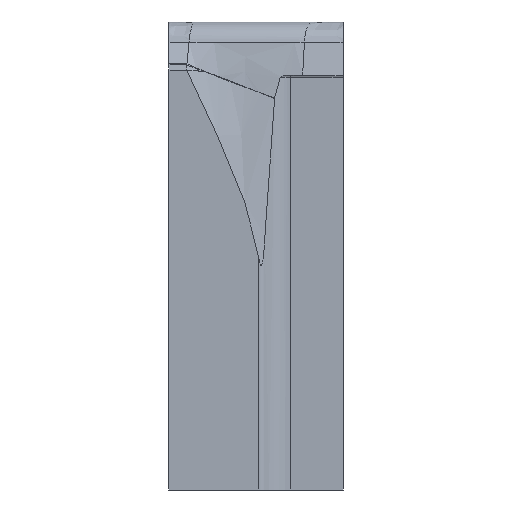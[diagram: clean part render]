
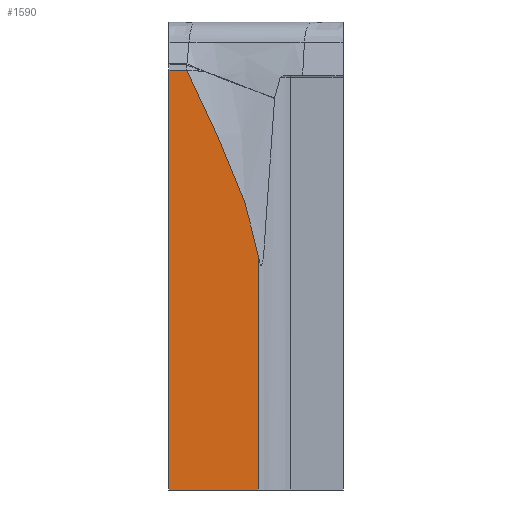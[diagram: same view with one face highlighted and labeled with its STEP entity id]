
A CAD part, left-side view. The second image highlights one B-rep face of the part: STEP entity #1590.
In plain terms, the highlighted planar face has unit normal (-1, 0, 0).
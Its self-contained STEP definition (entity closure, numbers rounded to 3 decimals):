
#1531=AXIS2_PLACEMENT_3D('Plane Axis2P3D',#1528,#1529,#1530) ;
#1528=CARTESIAN_POINT('Axis2P3D Location',(-14.,-0.82,-160.)) ;
#1534=CARTESIAN_POINT('Control Point',(-14.,-0.82,-79.494)) ;
#1535=CARTESIAN_POINT('Control Point',(-14.,-0.078,-75.244)) ;
#1536=CARTESIAN_POINT('Control Point',(-14.,0.82,-71.022)) ;
#1537=CARTESIAN_POINT('Control Point',(-14.,1.895,-66.866)) ;
#1538=CARTESIAN_POINT('Control Point',(-14.,4.421,-58.689)) ;
#1539=CARTESIAN_POINT('Control Point',(-14.,7.555,-50.747)) ;
#1540=CARTESIAN_POINT('Control Point',(-14.,9.233,-46.845)) ;
#1541=CARTESIAN_POINT('Control Point',(-14.,11.508,-41.804)) ;
#1542=CARTESIAN_POINT('Control Point',(-14.,13.843,-36.799)) ;
#1543=CARTESIAN_POINT('Control Point',(-14.,14.396,-35.621)) ;
#1544=CARTESIAN_POINT('Control Point',(-14.,16.574,-30.993)) ;
#1545=CARTESIAN_POINT('Control Point',(-14.,18.763,-26.376)) ;
#1546=CARTESIAN_POINT('Control Point',(-14.,20.384,-22.931)) ;
#1547=CARTESIAN_POINT('Control Point',(-14.,22.045,-19.345)) ;
#1548=CARTESIAN_POINT('Control Point',(-14.,23.671,-15.747)) ;
#1549=CARTESIAN_POINT('Control Point',(-14.,23.731,-15.613)) ;
#1550=CARTESIAN_POINT('Control Point',(-14.,23.792,-15.478)) ;
#1551=CARTESIAN_POINT('Control Point',(-14.,23.853,-15.343)) ;
#1552=CARTESIAN_POINT('Vertex',(-14.,-0.82,-79.494)) ;
#1554=CARTESIAN_POINT('Vertex',(-14.,23.853,-15.343)) ;
#1557=CARTESIAN_POINT('Line Origine',(-14.,26.926,-15.343)) ;
#1561=CARTESIAN_POINT('Vertex',(-14.,30.,-15.343)) ;
#1564=CARTESIAN_POINT('Line Origine',(-14.,30.,-87.672)) ;
#1568=CARTESIAN_POINT('Vertex',(-14.,30.,-160.)) ;
#1571=CARTESIAN_POINT('Line Origine',(-14.,14.59,-160.)) ;
#1575=CARTESIAN_POINT('Vertex',(-14.,-0.82,-160.)) ;
#1578=CARTESIAN_POINT('Line Origine',(-14.,-0.82,-119.747)) ;
#1529=DIRECTION('Axis2P3D Direction',(1.,0.,0.)) ;
#1530=DIRECTION('Axis2P3D XDirection',(0.,1.,0.)) ;
#1558=DIRECTION('Vector Direction',(0.,-1.,0.)) ;
#1565=DIRECTION('Vector Direction',(0.,0.,1.)) ;
#1572=DIRECTION('Vector Direction',(0.,1.,0.)) ;
#1579=DIRECTION('Vector Direction',(0.,0.,1.)) ;
#1559=VECTOR('Line Direction',#1558,1.) ;
#1566=VECTOR('Line Direction',#1565,1.) ;
#1573=VECTOR('Line Direction',#1572,1.) ;
#1580=VECTOR('Line Direction',#1579,1.) ;
#1584=ORIENTED_EDGE('',*,*,#1556,.T.) ;
#1585=ORIENTED_EDGE('',*,*,#1563,.F.) ;
#1586=ORIENTED_EDGE('',*,*,#1570,.F.) ;
#1587=ORIENTED_EDGE('',*,*,#1577,.F.) ;
#1588=ORIENTED_EDGE('',*,*,#1582,.T.) ;
#1590=ADVANCED_FACE('29_12_2022',(#1589),#1532,.F.) ;
#1533=B_SPLINE_CURVE_WITH_KNOTS('',5,(#1534,#1535,#1536,#1537,#1538,#1539,#1540,#1541,#1542,#1543,#1544,#1545,#1546,#1547,#1548,#1549,#1550,#1551),.UNSPECIFIED.,.F.,.U.,(6,3,3,3,3,6),(0.,30.281,60.154,69.363,96.367,97.417),.UNSPECIFIED.) ;
#1556=EDGE_CURVE('',#1553,#1555,#1533,.T.) ;
#1563=EDGE_CURVE('',#1562,#1555,#1560,.T.) ;
#1570=EDGE_CURVE('',#1569,#1562,#1567,.T.) ;
#1577=EDGE_CURVE('',#1576,#1569,#1574,.T.) ;
#1582=EDGE_CURVE('',#1576,#1553,#1581,.T.) ;
#1583=EDGE_LOOP('',(#1584,#1585,#1586,#1587,#1588)) ;
#1589=FACE_OUTER_BOUND('',#1583,.T.) ;
#1560=LINE('Line',#1557,#1559) ;
#1567=LINE('Line',#1564,#1566) ;
#1574=LINE('Line',#1571,#1573) ;
#1581=LINE('Line',#1578,#1580) ;
#1532=PLANE('',#1531) ;
#1553=VERTEX_POINT('',#1552) ;
#1555=VERTEX_POINT('',#1554) ;
#1562=VERTEX_POINT('',#1561) ;
#1569=VERTEX_POINT('',#1568) ;
#1576=VERTEX_POINT('',#1575) ;
